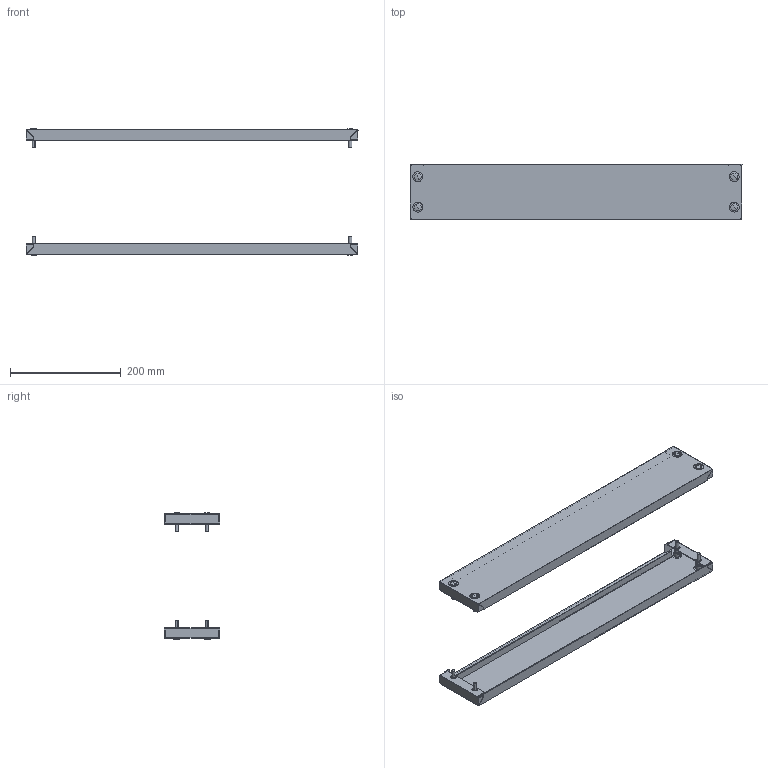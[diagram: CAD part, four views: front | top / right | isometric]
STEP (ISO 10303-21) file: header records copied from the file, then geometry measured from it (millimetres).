
FILE_DESCRIPTION (( 'STEP AP203' ), '1' );
FILE_NAME ('R5FZ6-250.STEP', '2025-06-18T08:37:28', ( '' ), ( '' ), 'SwSTEP 2.0', 'SolidWorks 2022', '' );
FILE_SCHEMA (( 'CONFIG_CONTROL_DESIGN' ));
Length unit declared in the file: millimetre
Products named in the file (5): 6 DIN 6798 A Zinc; Plug_11.5-13Д18ЧК_-00; M6x16 DIN 912 HX cl.4,8 Zinc_stright; RB.1055.00.00.0 simple_-02 (600); R5FZ6-250
Assembly tree (26 placements, depth 2):
  R5FZ6-250
    RB.1055.00.00.0 simple_-02 (600)  x2
    M6x16 DIN 912 HX cl.4,8 Zinc_stright  x8
    6 DIN 6798 A Zinc  x8
    Plug_11.5-13Д18ЧК_-00  x8
Bounding box: 599 x 100.05 x 228.5 mm (x, y, z)
Volume: 294956.8 mm3; surface area: 400063.7 mm2
Topology: 26 solids, 26 shells, 1196 faces, 3456 edges, 2112 vertices
Faces by surface type: plane 700, bspline 208, cylinder 128, cone 96, torus 48, sphere 16
Entity records: 9921 total; most frequent: CARTESIAN_POINT 2626, ORIENTED_EDGE 1352, DIRECTION 1188, EDGE_CURVE 676, LINE 448, VECTOR 448, VERTEX_POINT 444, AXIS2_PLACEMENT_3D 370
